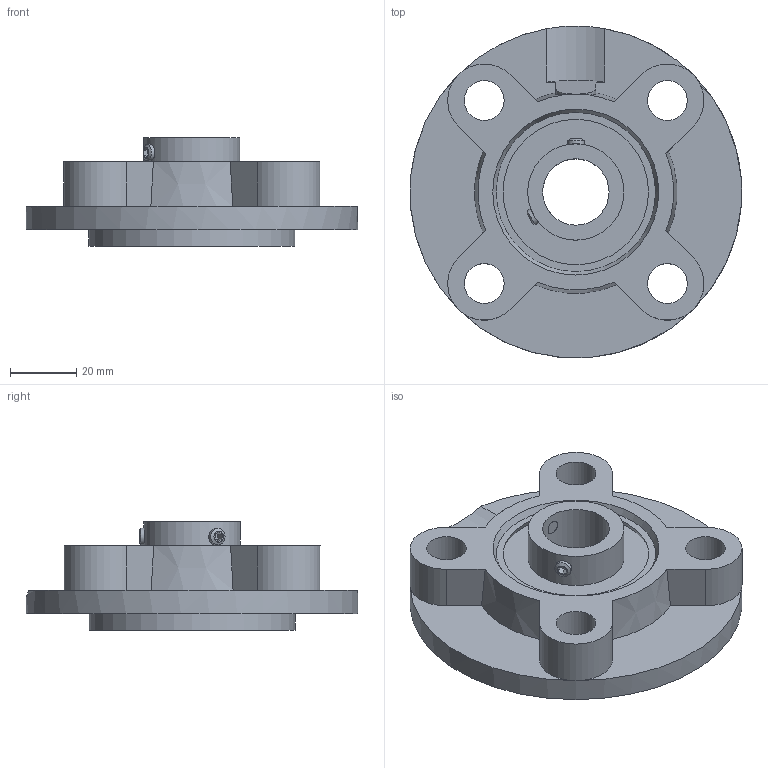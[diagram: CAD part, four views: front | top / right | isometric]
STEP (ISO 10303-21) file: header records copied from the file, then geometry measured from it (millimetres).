
FILE_DESCRIPTION((''),'2;1');
FILE_NAME('\\Ts-tgl068\j-cad-d-base\00.3DCADデータ作成フォルダ\02.フランジ形\BFC200\BFC204.stp','2014-05-08T08:23:12',('btec_1106_2'),(''),'Autodesk Inventor 2012','Autodesk Inventor 2012','');
FILE_SCHEMA(('AUTOMOTIVE_DESIGN { 1 0 10303 214 1 1 1 1 }'));
Length unit declared in the file: millimetre
Products named in the file (3): BFC200; FC204G00; シリーズB [番手=4 ul]
Assembly tree (2 placements, depth 2):
  BFC200
    FC204G00
    シリーズB [番手=4 ul]
Bounding box: 99.88 x 99.92 x 32.7 mm (x, y, z)
Volume: 98238.2 mm3; surface area: 33185.4 mm2
Topology: 2 solids, 2 shells, 74 faces, 181 edges, 119 vertices
Faces by surface type: plane 42, cylinder 19, cone 9, sphere 2, bspline 2
Full cylindrical faces by diameter (mm): 5 x2, 12 x4, 20 x1, 29 x1, 62 x1, 100 x1
Entity records: 2277 total; most frequent: CARTESIAN_POINT 568, DIRECTION 346, ORIENTED_EDGE 306, EDGE_CURVE 153, AXIS2_PLACEMENT_3D 138, EDGE_LOOP 112, VERTEX_POINT 109, FACE_OUTER_BOUND 74
